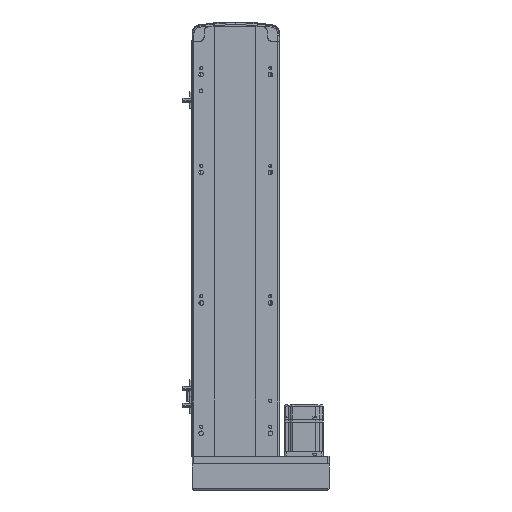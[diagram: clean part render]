
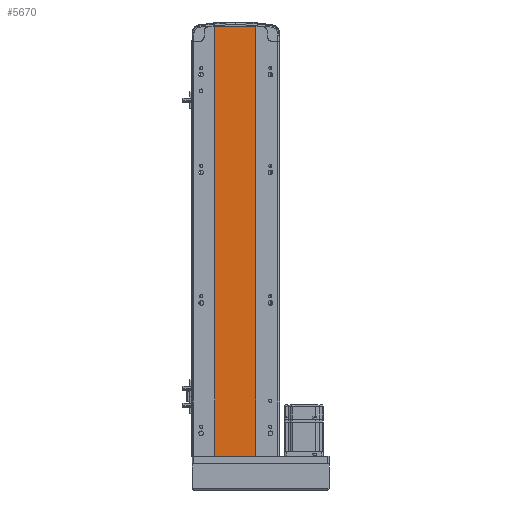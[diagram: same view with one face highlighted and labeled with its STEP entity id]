
A CAD part, front view. The second image highlights one B-rep face of the part: STEP entity #5670.
In plain terms, the highlighted planar face has unit normal (0, -1, 0).
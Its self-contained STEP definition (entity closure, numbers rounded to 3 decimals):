
#30 = DIRECTION ( 'NONE',  ( 1., 0., 0. ) ) ;
#549 = PLANE ( 'NONE',  #32879 ) ;
#717 = EDGE_CURVE ( 'NONE', #3605, #56503, #8422, .T. ) ;
#3176 = CARTESIAN_POINT ( 'NONE',  ( 30., 1., 659. ) ) ;
#3558 = CARTESIAN_POINT ( 'NONE',  ( -32., 1., 659. ) ) ;
#3605 = VERTEX_POINT ( 'NONE', #47877 ) ;
#4101 = DIRECTION ( 'NONE',  ( 0., 0., -1. ) ) ;
#4537 = VERTEX_POINT ( 'NONE', #3176 ) ;
#4791 = DIRECTION ( 'NONE',  ( 0., 1., 0. ) ) ;
#5670 = ADVANCED_FACE ( 'NONE', ( #12772 ), #549, .F. ) ;
#8155 = CARTESIAN_POINT ( 'NONE',  ( 30., 1., 659. ) ) ;
#8422 = LINE ( 'NONE', #3558, #52415 ) ;
#12772 = FACE_OUTER_BOUND ( 'NONE', #49173, .T. ) ;
#14198 = CARTESIAN_POINT ( 'NONE',  ( 30., 1., 0. ) ) ;
#17636 = LINE ( 'NONE', #26374, #21761 ) ;
#18316 = CARTESIAN_POINT ( 'NONE',  ( -32., 1., 0. ) ) ;
#18985 = EDGE_CURVE ( 'NONE', #3605, #4537, #17636, .T. ) ;
#19514 = VECTOR ( 'NONE', #4101, 1000. ) ;
#21484 = EDGE_CURVE ( 'NONE', #56503, #44519, #42123, .T. ) ;
#21761 = VECTOR ( 'NONE', #30, 1000. ) ;
#22269 = CARTESIAN_POINT ( 'NONE',  ( -32., 1., 659. ) ) ;
#23326 = DIRECTION ( 'NONE',  ( 1., 0., 0. ) ) ;
#26374 = CARTESIAN_POINT ( 'NONE',  ( -32., 1., 659. ) ) ;
#30490 = DIRECTION ( 'NONE',  ( 0., 0., -1. ) ) ;
#31230 = EDGE_CURVE ( 'NONE', #4537, #44519, #55210, .T. ) ;
#32879 = AXIS2_PLACEMENT_3D ( 'NONE', #22269, #4791, #35605 ) ;
#34101 = ORIENTED_EDGE ( 'NONE', *, *, #18985, .F. ) ;
#35605 = DIRECTION ( 'NONE',  ( -1., 0., 0. ) ) ;
#36801 = ORIENTED_EDGE ( 'NONE', *, *, #717, .T. ) ;
#37377 = VECTOR ( 'NONE', #23326, 1000. ) ;
#42123 = LINE ( 'NONE', #53500, #37377 ) ;
#44519 = VERTEX_POINT ( 'NONE', #14198 ) ;
#47877 = CARTESIAN_POINT ( 'NONE',  ( -32., 1., 659. ) ) ;
#48548 = ORIENTED_EDGE ( 'NONE', *, *, #21484, .T. ) ;
#49173 = EDGE_LOOP ( 'NONE', ( #48548, #55470, #34101, #36801 ) ) ;
#52415 = VECTOR ( 'NONE', #30490, 1000. ) ;
#53500 = CARTESIAN_POINT ( 'NONE',  ( -32., 1., 0. ) ) ;
#55210 = LINE ( 'NONE', #8155, #19514 ) ;
#55470 = ORIENTED_EDGE ( 'NONE', *, *, #31230, .F. ) ;
#56503 = VERTEX_POINT ( 'NONE', #18316 ) ;
